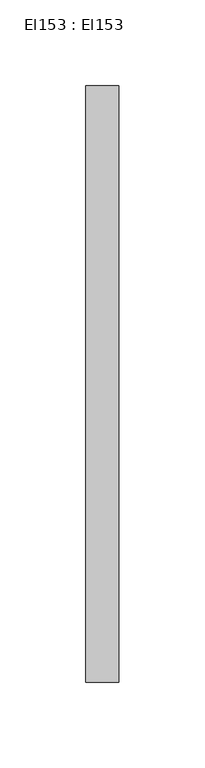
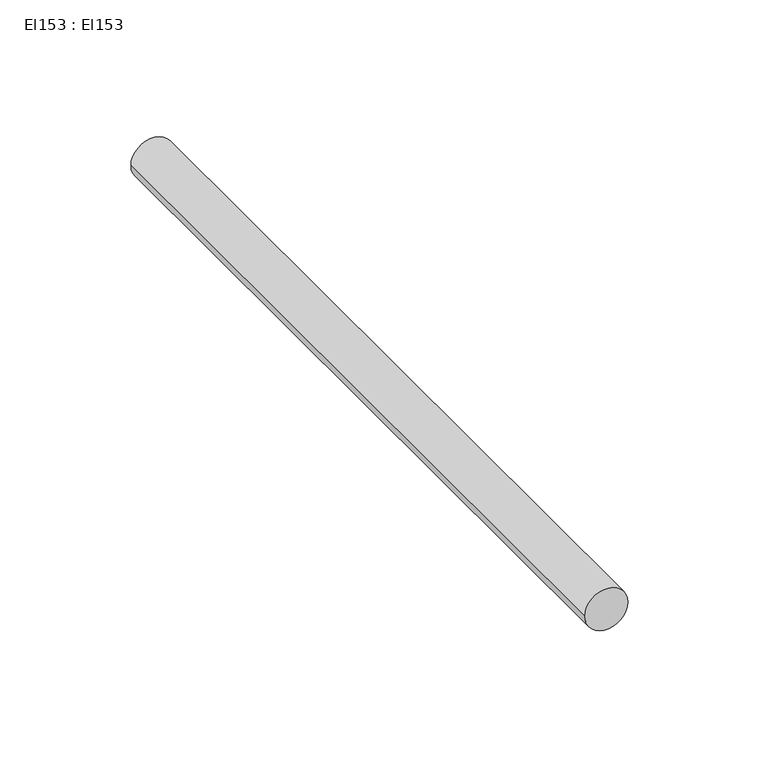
"""IFC4 building model written with IfcOpenShell, lengths in millimetres: cable carrier segment geometry, El153 : El153."""

from ifc_helpers import new_model, si_unit, point, frame, frame_2d, origin, place, context, project, spatial, circle_curve, trimmed, segment, composite_curve, outline, extrude, source, transform, mapped, element, save


def el153_el153_3bf7a9a1(model_context):
    return source(origin(), model_context, "Body", "SweptSolid", [
        extrude(outline(composite_curve([segment(trimmed(circle_curve(frame_2d((1200.0, 21030.0)), 9.5), [point((1200.0, 21020.5))], [point((1200.0, 21039.5))], False, "CARTESIAN"), True, "CONTINUOUS"), segment(trimmed(circle_curve(frame_2d((1200.0, 21030.0)), 9.5), [point((1200.0, 21039.5))], [point((1200.0, 21020.5))], False, "CARTESIAN"), True, "CONTINUOUS")], self_intersect=False)), frame((0.0, 9543.137, 0.0), z_axis=(0.0, 1.0, 0.0), x_axis=(0.0, 0.0, 1.0)), (0.0, 0.0, 1.0), 346.566),
    ])


if __name__ == "__main__":
    model = new_model("IFC4")
    model_context = context("Model", 3, world=origin())
    ifc_project = project(units=[si_unit("LENGTHUNIT", "METRE", prefix="MILLI")], contexts=[model_context])
    site = spatial("IfcSite", under=ifc_project)
    building = spatial("IfcBuilding", under=site)
    placement = place(None, origin())
    el153_el153_shape = el153_el153_3bf7a9a1(model_context)
    element("IfcCableCarrierSegment", 1, ObjectType="El153 : El153", at=placement, inside=building, context=model_context, shape_type="MappedRepresentation", body=[
        mapped(el153_el153_shape, transform((0.0, 0.0, 0.0), x_axis=(1.0, 0.0, 0.0), y_axis=(0.0, 1.0, 0.0), z_axis=(0.0, 0.0, 1.0))),
    ])
    save(model, "model.ifc")
